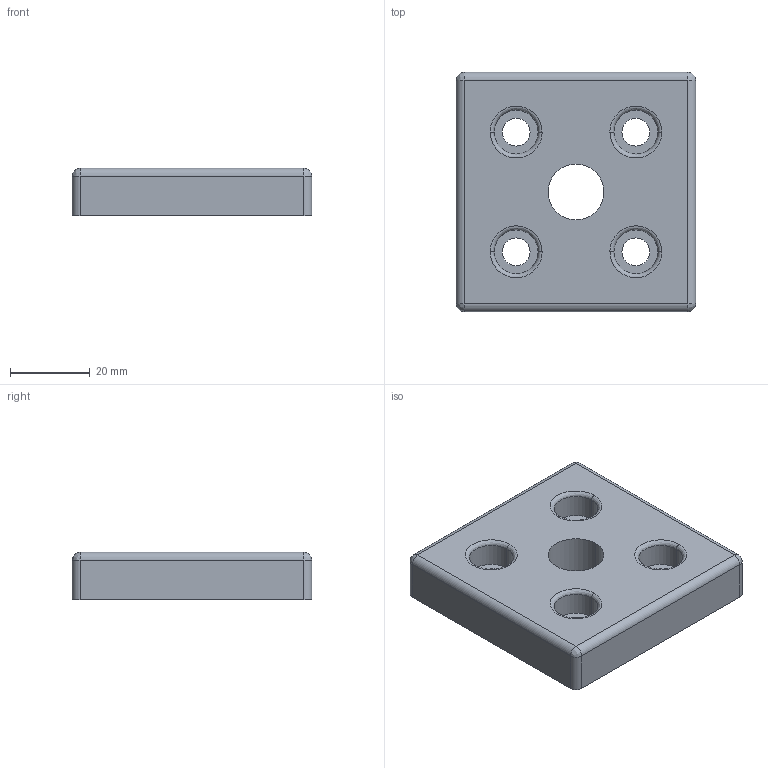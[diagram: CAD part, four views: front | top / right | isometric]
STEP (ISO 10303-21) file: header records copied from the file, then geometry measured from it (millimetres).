
FILE_DESCRIPTION (( 'STEP AP203' ), '1' );
FILE_NAME ('0106FP6060M16.STEP', '2024-03-15T11:34:30', ( 'Windows-Benutzer' ), ( '' ), 'SwSTEP 2.0', 'SolidWorks 2023', '' );
FILE_SCHEMA (( 'CONFIG_CONTROL_DESIGN' ));
Length unit declared in the file: millimetre
Products named in the file (1): 0106FP6060M16
Bounding box: 60 x 60 x 12 mm (x, y, z)
Volume: 26258.5 mm3; surface area: 15776.4 mm2
Topology: 1 solids, 1 shells, 125 faces, 329 edges, 210 vertices
Faces by surface type: cylinder 79, plane 34, bspline 12
Entity records: 4114 total; most frequent: CARTESIAN_POINT 865, DIRECTION 711, ORIENTED_EDGE 650, EDGE_CURVE 325, AXIS2_PLACEMENT_3D 280, VERTEX_POINT 210, CIRCLE 166, VECTOR 151
